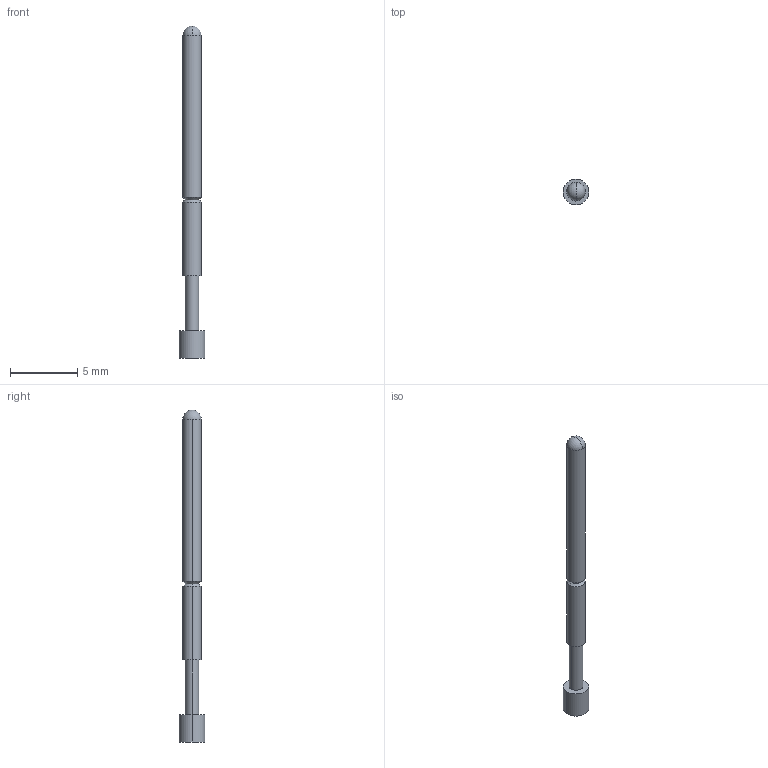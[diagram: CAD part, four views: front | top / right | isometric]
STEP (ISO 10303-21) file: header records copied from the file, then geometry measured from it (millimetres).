
FILE_DESCRIPTION (( 'STEP AP214' ), '1' );
FILE_NAME ('PA3F.STEP', '2024-07-10T13:49:47', ( '' ), ( '' ), 'SwSTEP 2.0', 'SolidWorks 2024', '' );
FILE_SCHEMA (( 'AUTOMOTIVE_DESIGN' ));
Length unit declared in the file: millimetre
Products named in the file (1): PA3F
Bounding box: 1.9 x 1.9 x 24.64 mm (x, y, z)
Volume: 36 mm3; surface area: 110.8 mm2
Topology: 1 solids, 1 shells, 17 faces, 36 edges, 21 vertices
Faces by surface type: cylinder 8, cone 4, plane 3, sphere 2
Entity records: 473 total; most frequent: DIRECTION 92, CARTESIAN_POINT 73, ORIENTED_EDGE 68, AXIS2_PLACEMENT_3D 40, EDGE_CURVE 34, CIRCLE 22, VERTEX_POINT 21, EDGE_LOOP 19
